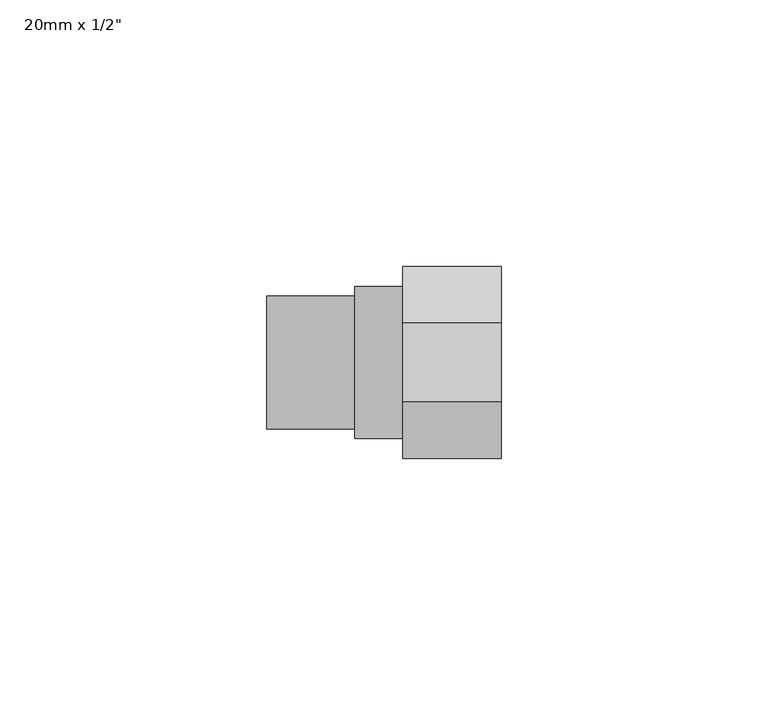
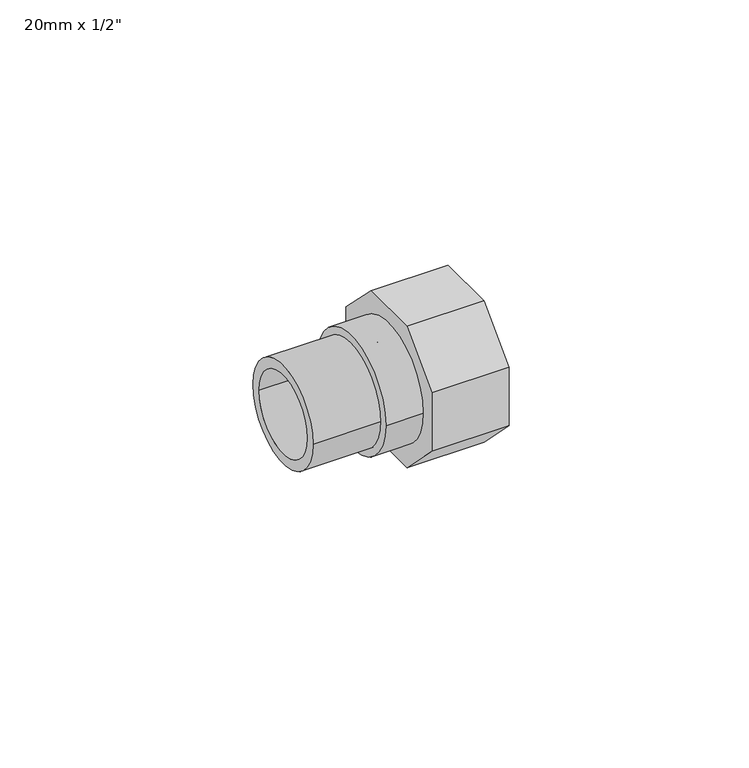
"""IFC4 building model written with IfcOpenShell, lengths in millimetres: pipe fitting geometry."""

import ifcopenshell
import ifcopenshell.guid

model = None  # the IFC model being written
_history = None  # IfcOwnerHistory: only IFC2X3 demands one
_inside = {}  # id of a spatial element -> (the spatial element, [elements in it])
_under = {}  # id of a project, library or spatial element -> (it, [spatial elements below it])
_declared = {}  # id of a project -> (the project, [libraries it declares])
_typed = {}  # id of a type object -> (the type object, [elements of that type])
_made_of = {}  # id of a material, layer set ... -> (it, [elements and type objects made of it])


def new_model(schema):
    """Start an empty IFC model of exactly this schema.

    Asked for "IFC4X3", IfcOpenShell would pick the latest addendum, in which some entities
    have other attributes; the version numbers below select the first issue.
    IFC2X3 requires an IfcOwnerHistory on every rooted entity: one is made here for all.
    """
    global model, _history
    if schema == "IFC4X3":
        model = ifcopenshell.file(schema_version=(4, 3, 0, 0))
    else:
        model = ifcopenshell.file(schema=schema)
    _inside.clear()
    _under.clear()
    _declared.clear()
    _typed.clear()
    _made_of.clear()
    _history = None
    if model.schema == "IFC2X3":
        org = make("IfcOrganization", Name="unknown")
        user = make(
            "IfcPersonAndOrganization",
            ThePerson=make("IfcPerson", FamilyName="unknown"),
            TheOrganization=org,
        )
        app = make(
            "IfcApplication",
            ApplicationDeveloper=org,
            Version="unknown",
            ApplicationFullName="unknown",
            ApplicationIdentifier="unknown",
        )
        _history = make(
            "IfcOwnerHistory",
            OwningUser=user,
            OwningApplication=app,
            ChangeAction="ADDED",
            CreationDate=0,
        )
    return model


def make(cls, **values):
    """One entity of the class cls with the attributes given. An attribute that is None is left unset."""
    return model.create_entity(
        cls, **{name: value for name, value in values.items() if value is not None}
    )


def rooted(cls, **values):
    """An entity with a GlobalId (a new one), such as an element, a storey or a relation."""
    return make(cls, GlobalId=ifcopenshell.guid.new(), OwnerHistory=_history, **values)


def si_unit(unit_type, name, prefix=None):
    """IfcSIUnit, for example si_unit("LENGTHUNIT", "METRE", prefix="MILLI")."""
    return make("IfcSIUnit", UnitType=unit_type, Prefix=prefix, Name=name)


def assignment(units):
    """IfcUnitAssignment: the units of a project."""
    return None if units is None else make("IfcUnitAssignment", Units=units)


def point(xyz):
    """IfcCartesianPoint."""
    return None if xyz is None else make("IfcCartesianPoint", Coordinates=xyz)


def direction(xyz):
    """IfcDirection."""
    return None if xyz is None else make("IfcDirection", DirectionRatios=xyz)


def frame(location, z_axis=None, x_axis=None):
    """IfcAxis2Placement3D, a coordinate frame: its origin and axes. An axis left out is left unset."""
    return make(
        "IfcAxis2Placement3D",
        Location=point(location),
        Axis=direction(z_axis),
        RefDirection=direction(x_axis),
    )


def frame_2d(location, x_axis=None):
    """IfcAxis2Placement2D, a coordinate frame in the plane: its origin and x axis."""
    return make(
        "IfcAxis2Placement2D", Location=point(location), RefDirection=direction(x_axis)
    )


def origin():
    """The frame at (0, 0, 0) with its axes left unset."""
    return frame((0.0, 0.0, 0.0))


def origin_2d():
    """The frame at (0, 0) in the plane with its x axis left unset."""
    return frame_2d((0.0, 0.0))


def place(relative_to, where):
    """IfcLocalPlacement: puts the frame where relative to a parent placement (None: the world)."""
    return make(
        "IfcLocalPlacement", PlacementRelTo=relative_to, RelativePlacement=where
    )


def context(
    kind, dimensions, precision=None, world=None, true_north=None, identifier=None
):
    """IfcGeometricRepresentationContext, for example the 3D "Model" context."""
    return make(
        "IfcGeometricRepresentationContext",
        ContextIdentifier=identifier,
        ContextType=kind,
        CoordinateSpaceDimension=dimensions,
        Precision=precision,
        WorldCoordinateSystem=world,
        TrueNorth=true_north,
    )


def project(units=None, contexts=None):
    """IfcProject with its units and contexts."""
    return rooted(
        "IfcProject",
        Name="project",
        RepresentationContexts=contexts,
        UnitsInContext=assignment(units),
    )


def spatial(cls, under=None, at=None, **own):
    """A site, building, storey or space (cls), placed at a placement, below another one or the project."""
    s = rooted(cls, ObjectPlacement=at, **own)
    if under is not None:
        _under.setdefault(under.id(), (under, []))[1].append(s)
    return s


def polyline(points):
    """IfcPolyline through the points."""
    return make("IfcPolyline", Points=[point(p) for p in points])


def circle_curve(where, radius):
    """IfcCircle in the frame where."""
    return make("IfcCircle", Position=where, Radius=radius)


def trimmed(basis, trim1, trim2, sense, master):
    """IfcTrimmedCurve: the piece of a basis curve between two trims."""
    return make(
        "IfcTrimmedCurve",
        BasisCurve=basis,
        Trim1=trim1,
        Trim2=trim2,
        SenseAgreement=sense,
        MasterRepresentation=master,
    )


def segment(curve, same_sense, transition):
    """IfcCompositeCurveSegment."""
    return make(
        "IfcCompositeCurveSegment",
        Transition=transition,
        SameSense=same_sense,
        ParentCurve=curve,
    )


def composite_curve(segments, self_intersect=None):
    """IfcCompositeCurve: segments joined end to end."""
    return make("IfcCompositeCurve", Segments=segments, SelfIntersect=self_intersect)


def outline(outer, holes=None, kind="AREA"):
    """IfcArbitraryClosedProfileDef: a profile drawn as a closed curve; with holes, ...WithVoids."""
    if holes is None:
        return make("IfcArbitraryClosedProfileDef", ProfileType=kind, OuterCurve=outer)
    return make(
        "IfcArbitraryProfileDefWithVoids",
        ProfileType=kind,
        OuterCurve=outer,
        InnerCurves=holes,
    )


def extrude(swept, where, along, depth):
    """IfcExtrudedAreaSolid: the profile swept, set in the frame where, extruded along a direction by depth."""
    return make(
        "IfcExtrudedAreaSolid",
        SweptArea=swept,
        Position=where,
        ExtrudedDirection=direction(along),
        Depth=depth,
    )


def shape(context_of_items, identifier, shape_type, items):
    """IfcShapeRepresentation: the items that make up one representation, for example the "Body"."""
    return make(
        "IfcShapeRepresentation",
        ContextOfItems=context_of_items,
        RepresentationIdentifier=identifier,
        RepresentationType=shape_type,
        Items=items,
    )


def source(mapping_origin, context_of_items, identifier, shape_type, items):
    """IfcRepresentationMap: a shape defined once, which mapped items show again and again."""
    return make(
        "IfcRepresentationMap",
        MappingOrigin=mapping_origin,
        MappedRepresentation=shape(context_of_items, identifier, shape_type, items),
    )


def transform(
    local_origin,
    x_axis=None,
    y_axis=None,
    z_axis=None,
    scale=None,
    scale2=None,
    scale3=None,
    uniform=True,
):
    """IfcCartesianTransformationOperator3D, or its non-uniform kind. x_axis, y_axis, z_axis: its Axis1, 2, 3."""
    if uniform:
        return make(
            "IfcCartesianTransformationOperator3D",
            Axis1=direction(x_axis),
            Axis2=direction(y_axis),
            LocalOrigin=point(local_origin),
            Scale=scale,
            Axis3=direction(z_axis),
        )
    return make(
        "IfcCartesianTransformationOperator3DnonUniform",
        Axis1=direction(x_axis),
        Axis2=direction(y_axis),
        LocalOrigin=point(local_origin),
        Scale=scale,
        Axis3=direction(z_axis),
        Scale2=scale2,
        Scale3=scale3,
    )


def mapped(mapping_source, mapping_target):
    """IfcMappedItem: shows the shape of a source again, moved by a transform."""
    return make(
        "IfcMappedItem", MappingSource=mapping_source, MappingTarget=mapping_target
    )


def made_of(thing, what):
    """Note that an element or type object is made of a material, layer set ...; save() writes the relation."""
    if what is not None:
        _made_of.setdefault(what.id(), (what, []))[1].append(thing)
    return thing


def element(
    cls,
    number,
    at=None,
    inside=None,
    cuts=None,
    type_object=None,
    material=None,
    context=None,
    identifier="Body",
    shape_type=None,
    held_by="IfcProductDefinitionShape",
    body=None,
    shapes=None,
    **own,
):
    """One element of the class cls, such as IfcWall. Its Tag is "e" and its number.

    at: its placement. inside: the storey or other place that contains it. cuts: it is an
    opening in that element (IfcRelVoidsElement). A single representation is given by context,
    identifier, shape_type and body (its items); several are given by shapes. held_by: the class
    of the entity that holds the representations. save() writes the other relations.
    """
    e = rooted(cls, Tag="e%d" % number, ObjectPlacement=at, **own)
    if body is not None:
        shapes = [shape(context, identifier, shape_type, body)]
    if shapes is not None:
        e.Representation = make(held_by, Representations=shapes)
    if inside is not None:
        _inside.setdefault(inside.id(), (inside, []))[1].append(e)
    if cuts is not None:
        rooted(
            "IfcRelVoidsElement", RelatingBuildingElement=cuts, RelatedOpeningElement=e
        )
    if type_object is not None:
        _typed.setdefault(type_object.id(), (type_object, []))[1].append(e)
    return made_of(e, material)


def aggregate(whole, parts):
    """IfcRelAggregates: a whole, such as a stair, and the parts it consists of."""
    return rooted("IfcRelAggregates", RelatingObject=whole, RelatedObjects=parts)


def save(model, path):
    """Write the relations noted so far, then the file.

    IfcRelAggregates (storeys below a building ...), IfcRelContainedInSpatialStructure (elements
    in a storey), IfcRelDefinesByType, IfcRelAssociatesMaterial and IfcRelDeclares: one each for
    every whole, place, type object, material and project.
    """
    for whole, parts in _under.values():
        aggregate(whole, parts)
    for where, things in _inside.values():
        rooted(
            "IfcRelContainedInSpatialStructure",
            RelatedElements=things,
            RelatingStructure=where,
        )
    for kind, things in _typed.values():
        rooted("IfcRelDefinesByType", RelatedObjects=things, RelatingType=kind)
    for what, things in _made_of.values():
        rooted("IfcRelAssociatesMaterial", RelatedObjects=things, RelatingMaterial=what)
    for by, libraries in _declared.values():
        rooted("IfcRelDeclares", RelatingContext=by, RelatedDefinitions=libraries)
    model.write(path)


def plane_surface(at):
    """IfcPlane: the flat surface through the origin of the frame at, square to its z axis."""
    return make("IfcPlane", Position=at)


def revolved_surface(curve, axis_point, axis_direction):
    """IfcSurfaceOfRevolution: the curve turned about the line through axis_point along axis_direction."""
    return make(
        "IfcSurfaceOfRevolution",
        SweptCurve=make("IfcArbitraryOpenProfileDef", ProfileType="CURVE", Curve=curve),
        AxisPosition=make("IfcAxis1Placement", Location=point(axis_point), Axis=direction(axis_direction)),
    )


def advanced_brep(points, edges, surfaces, faces):
    """IfcAdvancedBrep: a solid bounded by faces that lie on surfaces and meet in shared edges.

    An edge is (start, end): straight between two places in points (the first is 0);
    or (start, end, curve); or (start, end, curve, False) where it runs against its curve.
    A face is (place in surfaces, loops), or (place, loops, False) where it looks against
    its surface's normal. A loop lists edges by number (the first is 1), with a minus sign
    where the edge is run from its end to its start. The first loop is the outer one.
    """
    corners = [point(p) for p in points]
    vertices = [make("IfcVertexPoint", VertexGeometry=c) for c in corners]
    made = []
    for start, end, *more in edges:
        made.append(
            make(
                "IfcEdgeCurve",
                EdgeStart=vertices[start],
                EdgeEnd=vertices[end],
                EdgeGeometry=more[0] if more else make("IfcPolyline", Points=[corners[start], corners[end]]),
                SameSense=more[1] if len(more) > 1 else True,
            )
        )
    hull = []
    for where, loops, *sense in faces:
        bounds = []
        for j, loop in enumerate(loops):
            ring = [make("IfcOrientedEdge", EdgeElement=made[abs(k) - 1], Orientation=k > 0) for k in loop]
            bounds.append(
                make(
                    "IfcFaceOuterBound" if j == 0 else "IfcFaceBound",
                    Bound=make("IfcEdgeLoop", EdgeList=ring),
                    Orientation=True,
                )
            )
        hull.append(make("IfcAdvancedFace", Bounds=bounds, FaceSurface=surfaces[where], SameSense=sense[0] if sense else True))
    return make("IfcAdvancedBrep", Outer=make("IfcClosedShell", CfsFaces=hull))


def pipe_fitting_64e7bc61(model_context):
    return source(origin(), model_context, "Body", "SolidModel", [
        extrude(outline(composite_curve([segment(trimmed(circle_curve(origin_2d(), 14.25), [point((-14.25, 0.0))], [point((14.25, 0.0))], False, "CARTESIAN"), True, "CONTINUOUS"), segment(trimmed(circle_curve(origin_2d(), 14.25), [point((14.25, 0.0))], [point((-14.25, 0.0))], False, "CARTESIAN"), True, "CONTINUOUS")], self_intersect=False), holes=[composite_curve([segment(trimmed(circle_curve(origin_2d(), 8.0), [point((-8.0, 0.0))], [point((8.0, 0.0))], True, "CARTESIAN"), True, "CONTINUOUS"), segment(trimmed(circle_curve(origin_2d(), 8.0), [point((8.0, 0.0))], [point((-8.0, 0.0))], True, "CARTESIAN"), True, "CONTINUOUS")], self_intersect=False)]), frame((8.25, 0.0, 0.0), z_axis=(1.0, 0.0, 0.0), x_axis=(0.0, 1.0, 0.0)), (0.0, 0.0, 1.0), 9.0),
        advanced_brep(
        [(17.25, 7.4558441, 18.0), (17.25, 18.0, 7.4558441), (17.25, 18.0, -7.4558441), (17.25, 7.4558441, -18.0), (17.25, -7.4558441, -18.0), (17.25, -18.0, -7.4558441), (17.25, -18.0, 7.4558441), (17.25, -7.4558441, 18.0), (17.25, -8.0, 0.0), (17.25, 8.0, 0.0), (35.75, 7.4558441, 18.0), (35.75, -7.4558441, 18.0), (35.75, -18.0, 7.4558441), (35.75, -18.0, -7.4558441), (35.75, -7.4558441, -18.0), (35.75, 7.4558441, -18.0), (35.75, 18.0, -7.4558441), (35.75, 18.0, 7.4558441), (35.75, 10.5, 0.0), (35.75, -10.5, 0.0), (35.55, 10.5, 0.0), (35.55, -10.5, 0.0), (35.55, 8.0, 0.0), (35.55, -8.0, 0.0)],
        [
            (0, 1),
            (1, 2),
            (2, 3),
            (3, 4),
            (4, 5),
            (5, 6),
            (6, 7),
            (7, 0),
            (8, 9, circle_curve(frame((17.25, 0.0, 0.0), z_axis=(1.0, 0.0, 0.0), x_axis=(0.0, -1.0, 0.0)), 8.0)),
            (9, 8, circle_curve(frame((17.25, 0.0, 0.0), z_axis=(1.0, 0.0, 0.0), x_axis=(0.0, -1.0, 0.0)), 8.0)),
            (10, 11),
            (11, 12),
            (12, 13),
            (13, 14),
            (14, 15),
            (15, 16),
            (16, 17),
            (17, 10),
            (18, 19, circle_curve(frame((35.75, 0.0, 0.0), z_axis=(-1.0, 0.0, 0.0), x_axis=(0.0, -1.0, 0.0)), 10.5)),
            (19, 18, circle_curve(frame((35.75, 0.0, 0.0), z_axis=(-1.0, 0.0, 0.0), x_axis=(0.0, -1.0, 0.0)), 10.5)),
            (0, 10),
            (17, 1),
            (16, 2),
            (15, 3),
            (14, 4),
            (13, 5),
            (12, 6),
            (11, 7),
            (20, 21, circle_curve(frame((35.55, 0.0, 0.0), z_axis=(1.0, 0.0, 0.0), x_axis=(0.0, -1.0, 0.0)), 10.5)),
            (21, 20, circle_curve(frame((35.55, 0.0, 0.0), z_axis=(1.0, 0.0, 0.0), x_axis=(0.0, -1.0, 0.0)), 10.5)),
            (22, 23, circle_curve(frame((35.55, 0.0, 0.0), z_axis=(-1.0, 0.0, 0.0), x_axis=(0.0, -1.0, 0.0)), 8.0)),
            (23, 22, circle_curve(frame((35.55, 0.0, 0.0), z_axis=(-1.0, 0.0, 0.0), x_axis=(0.0, -1.0, 0.0)), 8.0)),
            (21, 19),
            (18, 20),
            (22, 9),
            (8, 23),
        ],
        [
            plane_surface(frame((17.25, 0.0, 0.0), z_axis=(-1.0, 0.0, 0.0), x_axis=(0.0, 0.0, 1.0))),
            plane_surface(frame((35.75, 0.0, 0.0), z_axis=(1.0, 0.0, 0.0), x_axis=(0.0, 0.0, 1.0))),
            plane_surface(frame((17.25, 7.4558441, 18.0), z_axis=(0.0, 0.7071067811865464, 0.7071067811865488), x_axis=(1.0, 0.0, 0.0))),
            plane_surface(frame((17.25, 18.0, 7.4558441), z_axis=(0.0, 1.0, 0.0), x_axis=(1.0, 0.0, 0.0))),
            plane_surface(frame((17.25, 18.0, -7.4558441), z_axis=(0.0, 0.7071067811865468, -0.7071067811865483), x_axis=(1.0, 0.0, 0.0))),
            plane_surface(frame((17.25, 7.4558441, -18.0), z_axis=(0.0, 0.0, -1.0), x_axis=(1.0, 0.0, 0.0))),
            plane_surface(frame((17.25, -7.4558441, -18.0), z_axis=(0.0, -0.707106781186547, -0.7071067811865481), x_axis=(1.0, 0.0, 0.0))),
            plane_surface(frame((17.25, -18.0, -7.4558441), z_axis=(0.0, -1.0, 0.0), x_axis=(1.0, 0.0, 0.0))),
            plane_surface(frame((17.25, -18.0, 7.4558441), z_axis=(0.0, -0.7071067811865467, 0.7071067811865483), x_axis=(1.0, 0.0, 0.0))),
            plane_surface(frame((17.25, -7.4558441, 18.0), z_axis=(0.0, 0.0, 1.0), x_axis=(1.0, 0.0, 0.0))),
            plane_surface(frame((35.55, -10.5, 0.0), z_axis=(1.0, 0.0, 0.0), x_axis=(0.0, 0.0, 1.0))),
            revolved_surface(polyline([(35.55, -10.5, 0.0), (35.75, -10.5, 0.0)]), (35.75, 0.0, 0.0), (-1.0, 0.0, 0.0)),
            revolved_surface(polyline([(17.25, -8.0, 0.0), (35.55, -8.0, 0.0)]), (35.75, 0.0, 0.0), (-1.0, 0.0, 0.0)),
        ],
        [
            (0, [[1, 2, 3, 4, 5, 6, 7, 8], [9, 10]]),
            (1, [[11, 12, 13, 14, 15, 16, 17, 18], [19, 20]]),
            (2, [[-1, 21, -18, 22]]),
            (3, [[-2, -22, -17, 23]]),
            (4, [[-3, -23, -16, 24]]),
            (5, [[-4, -24, -15, 25]]),
            (6, [[-5, -25, -14, 26]]),
            (7, [[-6, -26, -13, 27]]),
            (8, [[-7, -27, -12, 28]]),
            (9, [[-8, -28, -11, -21]]),
            (10, [[29, 30], [31, 32]]),
            (11, [[-30, 33, -19, 34]]),
            (11, [[-29, -34, -20, -33]]),
            (12, [[35, -9, 36, -31]]),
            (12, [[-35, -32, -36, -10]]),
        ],
    ),
        extrude(outline(composite_curve([segment(trimmed(circle_curve(origin_2d(), 12.5), [point((-12.5, 0.0))], [point((12.5, 0.0))], False, "CARTESIAN"), True, "CONTINUOUS"), segment(trimmed(circle_curve(origin_2d(), 12.5), [point((12.5, 0.0))], [point((-12.5, 0.0))], False, "CARTESIAN"), True, "CONTINUOUS")], self_intersect=False), holes=[composite_curve([segment(trimmed(circle_curve(origin_2d(), 10.0), [point((-10.0, 0.0))], [point((10.0, 0.0))], True, "CARTESIAN"), True, "CONTINUOUS"), segment(trimmed(circle_curve(origin_2d(), 10.0), [point((10.0, 0.0))], [point((-10.0, 0.0))], True, "CARTESIAN"), True, "CONTINUOUS")], self_intersect=False)]), frame((-8.25, 0.0, 0.0), z_axis=(1.0, 0.0, 0.0), x_axis=(0.0, 1.0, 0.0)), (0.0, 0.0, 1.0), 16.5),
    ])


if __name__ == "__main__":
    model = new_model("IFC4")
    model_context = context("Model", 3, world=origin())
    ifc_project = project(units=[si_unit("LENGTHUNIT", "METRE", prefix="MILLI")], contexts=[model_context])
    site = spatial("IfcSite", under=ifc_project)
    building = spatial("IfcBuilding", under=site)
    placement = place(None, origin())
    pipe_fitting_shape = pipe_fitting_64e7bc61(model_context)
    element("IfcPipeFitting", 1, ObjectType="PipeFitting_HTA_CPVC_ThreadedAdaptors : 20mm x 1/2\"", at=placement, inside=building, context=model_context, shape_type="MappedRepresentation", body=[
        mapped(pipe_fitting_shape, transform((0.0, 0.0, 0.0), x_axis=(1.0, 0.0, 0.0), y_axis=(0.0, 1.0, 0.0), z_axis=(0.0, 0.0, 1.0))),
    ])
    save(model, "model.ifc")
